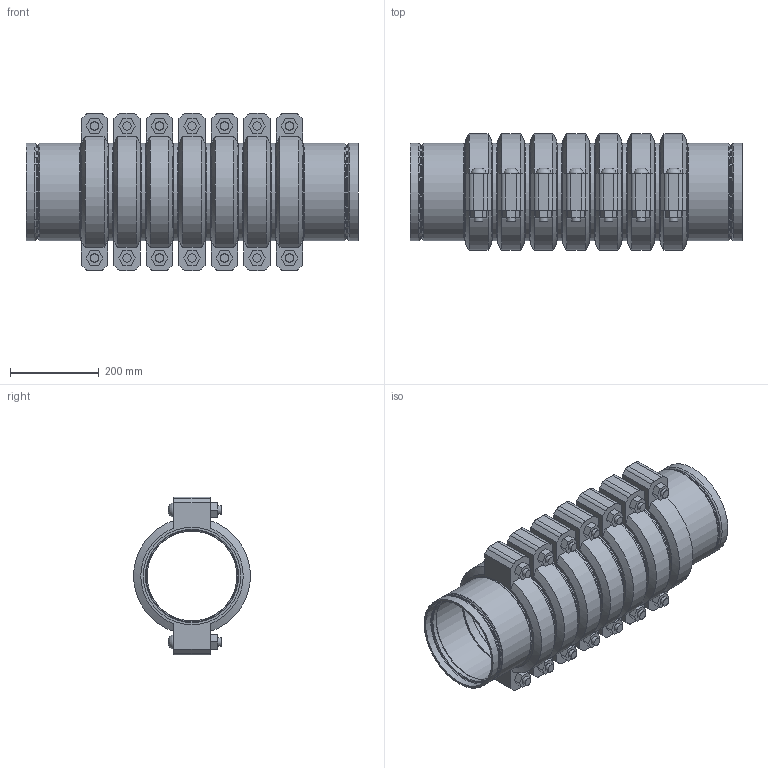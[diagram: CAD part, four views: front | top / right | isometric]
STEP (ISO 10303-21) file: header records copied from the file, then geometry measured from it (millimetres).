
FILE_DESCRIPTION(/* description */ ('VIC STRENGTHIN 100 EXPANSION JOINT 7 COUPLINGS NEUTRAL STYLE E155 (ST1)','CAx-IF Rec.Pracs.---Representation and Presentation of Product Manufacturing Information (PMI)---4.0---2014-10-13'),/* implementation_level */ '2;1');
FILE_NAME(/* name */ 'C:\Users\Vjadhav\AppData\Roaming\Autodesk\ApplicationPlugins\Victaulic.Temp\A857\Victaulic_SS-StrengThin 100_Expansion Joint_Neutral_7 Couplings_Style E155 (ST1)_7 Coup_Neut_8 (200).stp',/* time_stamp */ '2021-07-20T17:50:06+05:00',/* author */ ('kkamble'),/* organization */ ('Victaulic'),/* preprocessor_version */ 'ST-DEVELOPER v17.2',/* originating_system */ 'Autodesk Inventor 2019',/* authorisation */ '');
FILE_SCHEMA (('AP242_MANAGED_MODEL_BASED_3D_ENGINEERING_MIM_LF { 1 0 10303 442 1 1 4 }'));
Length unit declared in the file: inch
Products named in the file (4): E155-08.0; E494G-08.0; Nipple-08.0; 075-08.0
Assembly tree (15 placements, depth 2):
  E155-08.0
    E494G-08.0  x2
    Nipple-08.0  x6
    075-08.0  x7
Bounding box: 746.25 x 261.72 x 354.84 mm (x, y, z)
Volume: 12691669.2 mm3; surface area: 2292120.6 mm2
Topology: 15 solids, 29 shells, 541 faces, 1341 edges, 948 vertices
Faces by surface type: plane 302, cylinder 161, torus 32, cone 32, bspline 14
Full cylindrical faces by diameter (mm): 19.05 x28, 21.209 x14, 201.651 x2, 202.717 x6, 204.851 x2, 209.525 x6, 211.201 x2, 212.725 x7, 214.401 x14, 219.075 x38
Entity records: 3833 total; most frequent: DIRECTION 683, CARTESIAN_POINT 670, ORIENTED_EDGE 556, AXIS2_PLACEMENT_3D 292, EDGE_CURVE 278, VERTEX_POINT 201, CIRCLE 171, EDGE_LOOP 131
